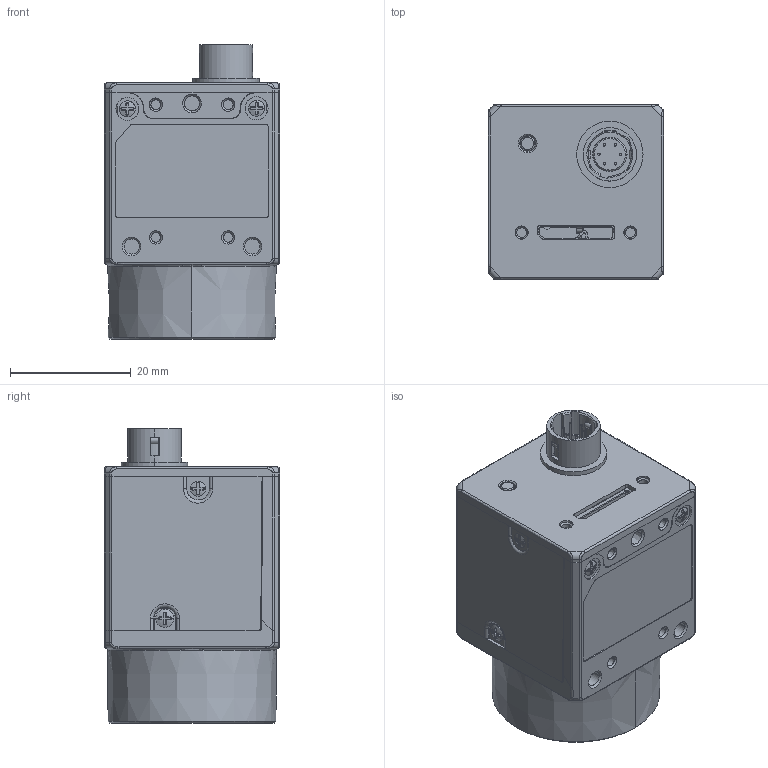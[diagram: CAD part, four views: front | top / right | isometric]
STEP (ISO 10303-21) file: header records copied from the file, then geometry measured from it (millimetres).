
FILE_DESCRIPTION((''),'2;1');
FILE_NAME('00_CARERA_1P3_CMOS_ASM_ASM','2019-04-22T16:26:14',('wangyijun6'),(''),'CREO PARAMETRIC BY PTC INC, 2017260','CREO PARAMETRIC BY PTC INC, 2017260','');
FILE_SCHEMA(('CONFIG_CONTROL_DESIGN'));
Products named in the file (1): 00_CARERA_1P3_CMOS_ASM_ASM
Bounding box: 29.03 x 29 x 48.75 mm (x, y, z)
Volume: 26349.8 mm3; surface area: 9112.4 mm2
Topology: 1 solids, 8 shells, 1508 faces, 4107 edges, 2598 vertices
Faces by surface type: plane 628, cylinder 357, cone 227, bspline 144, torus 118, extrusion 18, sphere 16
Entity records: 58742 total; most frequent: CARTESIAN_POINT 21431, ORIENTED_EDGE 8146, DIRECTION 7523, EDGE_CURVE 4073, AXIS2_PLACEMENT_3D 2745, VERTEX_POINT 2598, VECTOR 2033, LINE 2015
